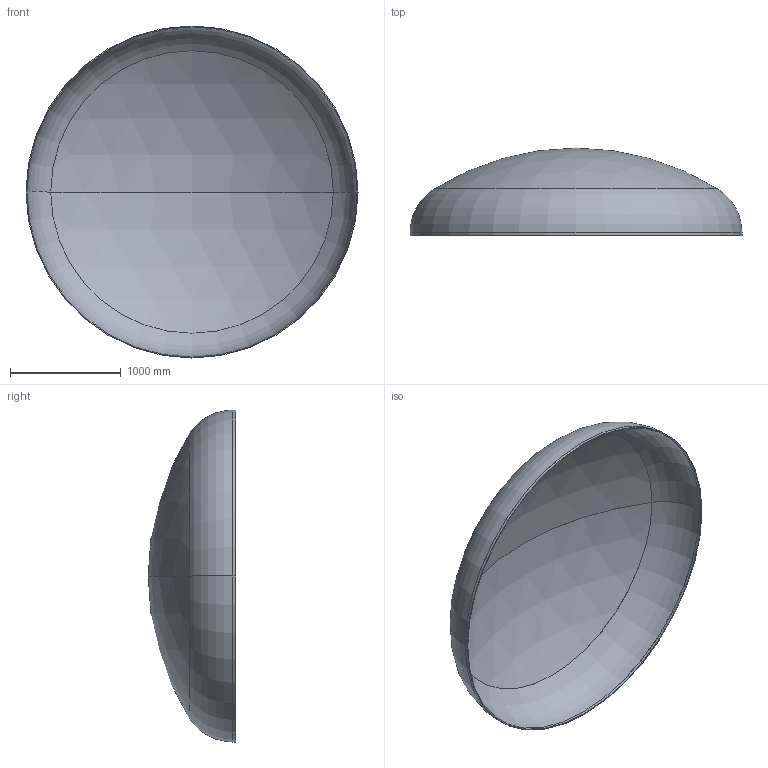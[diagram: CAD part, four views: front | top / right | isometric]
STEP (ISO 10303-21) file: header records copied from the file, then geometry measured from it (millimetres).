
FILE_DESCRIPTION (( 'STEP AP203' ), '1' );
FILE_NAME ('DIN 28013 Korbbogenform_-_Boden DIN 28013 - 3000 x 25 - I - s=8.step', '2016-07-01T17:27:11', ( '' ), ( '' ), 'SwSTEP 2.0', 'SolidWorks 2013', '' );
FILE_SCHEMA (( 'CONFIG_CONTROL_DESIGN' ));
Length unit declared in the file: millimetre
Products named in the file (1): DIN 28013 Korbbogenform_-_Boden DIN 28013 - 3000 x 25 - I - s=8
Bounding box: 3000 x 790.27 x 3000 mm (x, y, z)
Volume: 79863785.1 mm3; surface area: 20041269.3 mm2
Topology: 1 solids, 1 shells, 13 faces, 24 edges, 14 vertices
Faces by surface type: torus 4, cylinder 4, sphere 4, plane 1
Entity records: 407 total; most frequent: DIRECTION 72, CARTESIAN_POINT 52, ORIENTED_EDGE 48, AXIS2_PLACEMENT_3D 34, EDGE_CURVE 24, CIRCLE 20, EDGE_LOOP 14, VERTEX_POINT 14
